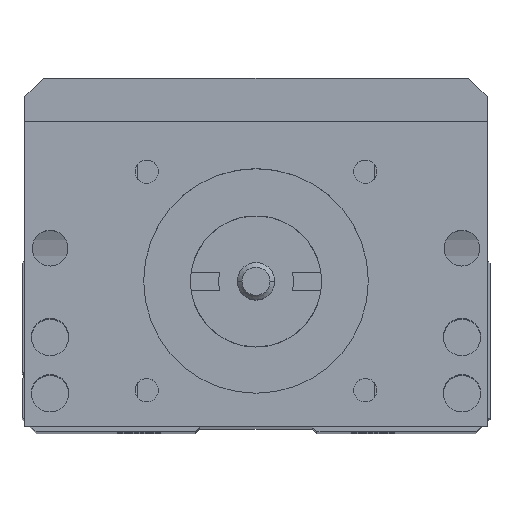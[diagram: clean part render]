
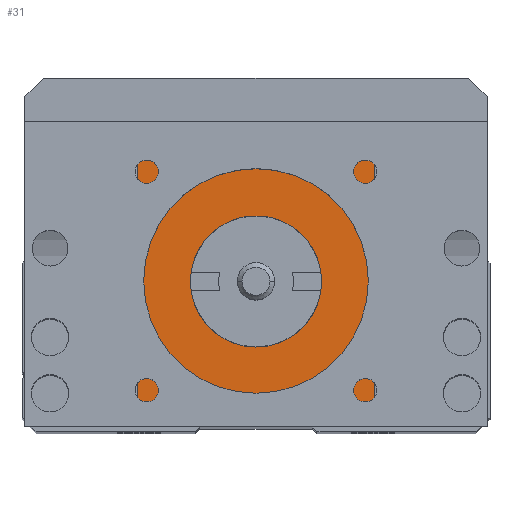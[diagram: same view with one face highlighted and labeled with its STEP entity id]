
A CAD part, top view. The second image highlights one B-rep face of the part: STEP entity #31.
In plain terms, the highlighted planar face has unit normal (0, 0, 1).
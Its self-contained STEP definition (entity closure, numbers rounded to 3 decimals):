
#13 = ORIENTED_EDGE ( 'NONE', *, *, #85, .F. ) ;
#16 = VERTEX_POINT ( 'NONE', #8256 ) ;
#18 = ORIENTED_EDGE ( 'NONE', *, *, #20, .F. ) ;
#20 = EDGE_CURVE ( 'NONE', #24, #16, #8252, .T. ) ;
#21 = VERTEX_POINT ( 'NONE', #8306 ) ;
#24 = VERTEX_POINT ( 'NONE', #8310 ) ;
#27 = EDGE_LOOP ( 'NONE', ( #28, #13 ) ) ;
#28 = ORIENTED_EDGE ( 'NONE', *, *, #248, .F. ) ;
#29 = ORIENTED_EDGE ( 'NONE', *, *, #241, .T. ) ;
#31 = ADVANCED_FACE ( 'NONE', ( #8264, #8301 ), #8300, .F. ) ;
#33 = VERTEX_POINT ( 'NONE', #8302 ) ;
#41 = EDGE_CURVE ( 'NONE', #24, #33, #8286, .T. ) ;
#42 = EDGE_LOOP ( 'NONE', ( #18, #249, #239, #29 ) ) ;
#71 = VERTEX_POINT ( 'NONE', #8404 ) ;
#85 = EDGE_CURVE ( 'NONE', #5847, #71, #8379, .T. ) ;
#239 = ORIENTED_EDGE ( 'NONE', *, *, #247, .T. ) ;
#241 = EDGE_CURVE ( 'NONE', #21, #16, #8688, .T. ) ;
#247 = EDGE_CURVE ( 'NONE', #33, #21, #8689, .T. ) ;
#248 = EDGE_CURVE ( 'NONE', #71, #5847, #8671, .T. ) ;
#249 = ORIENTED_EDGE ( 'NONE', *, *, #41, .T. ) ;
#1725 = CARTESIAN_POINT ( 'NONE',  ( 7., 16., 86.5 ) ) ;
#5847 = VERTEX_POINT ( 'NONE', #1725 ) ;
#8247 = DIRECTION ( 'NONE',  ( 0., 0., -1. ) ) ;
#8248 = CARTESIAN_POINT ( 'NONE',  ( -14.7, 0., 86.5 ) ) ;
#8250 = VECTOR ( 'NONE', #8304, 1000. ) ;
#8251 = CARTESIAN_POINT ( 'NONE',  ( -6.008, 0.5, 86.5 ) ) ;
#8252 = LINE ( 'NONE', #8251, #8250 ) ;
#8256 = CARTESIAN_POINT ( 'NONE',  ( -12.7, 0.5, 86.5 ) ) ;
#8264 = FACE_OUTER_BOUND ( 'NONE', #42, .T. ) ;
#8285 = CARTESIAN_POINT ( 'NONE',  ( 12.7, 33., 86.5 ) ) ;
#8286 = LINE ( 'NONE', #8285, #8334 ) ;
#8296 = DIRECTION ( 'NONE',  ( -1., 0., 0. ) ) ;
#8300 = PLANE ( 'NONE',  #8303 ) ;
#8301 = FACE_BOUND ( 'NONE', #27, .T. ) ;
#8302 = CARTESIAN_POINT ( 'NONE',  ( 12.7, 33., 86.5 ) ) ;
#8303 = AXIS2_PLACEMENT_3D ( 'NONE', #8248, #8247, #8296 ) ;
#8304 = DIRECTION ( 'NONE',  ( -1., 0., 0. ) ) ;
#8306 = CARTESIAN_POINT ( 'NONE',  ( -12.7, 33., 86.5 ) ) ;
#8310 = CARTESIAN_POINT ( 'NONE',  ( 12.7, 0.5, 86.5 ) ) ;
#8333 = DIRECTION ( 'NONE',  ( 0., 1., 0. ) ) ;
#8334 = VECTOR ( 'NONE', #8333, 1000. ) ;
#8379 = CIRCLE ( 'NONE', #8431, 7. ) ;
#8404 = CARTESIAN_POINT ( 'NONE',  ( -7., 16., 86.5 ) ) ;
#8428 = DIRECTION ( 'NONE',  ( -1., 0., 0. ) ) ;
#8429 = DIRECTION ( 'NONE',  ( 0., 0., 1. ) ) ;
#8430 = CARTESIAN_POINT ( 'NONE',  ( 0., 16., 86.5 ) ) ;
#8431 = AXIS2_PLACEMENT_3D ( 'NONE', #8430, #8429, #8428 ) ;
#8668 = DIRECTION ( 'NONE',  ( -1., 0., 0. ) ) ;
#8669 = VECTOR ( 'NONE', #8668, 1000. ) ;
#8670 = CARTESIAN_POINT ( 'NONE',  ( -14.7, 33., 86.5 ) ) ;
#8671 = CIRCLE ( 'NONE', #8678, 7. ) ;
#8673 = DIRECTION ( 'NONE',  ( 0., 0., 1. ) ) ;
#8677 = CARTESIAN_POINT ( 'NONE',  ( 0., 16., 86.5 ) ) ;
#8678 = AXIS2_PLACEMENT_3D ( 'NONE', #8677, #8673, #8730 ) ;
#8685 = DIRECTION ( 'NONE',  ( 0., -1., 0. ) ) ;
#8686 = VECTOR ( 'NONE', #8685, 1000. ) ;
#8687 = CARTESIAN_POINT ( 'NONE',  ( -12.7, 0.5, 86.5 ) ) ;
#8688 = LINE ( 'NONE', #8687, #8686 ) ;
#8689 = LINE ( 'NONE', #8670, #8669 ) ;
#8730 = DIRECTION ( 'NONE',  ( -1., 0., 0. ) ) ;
